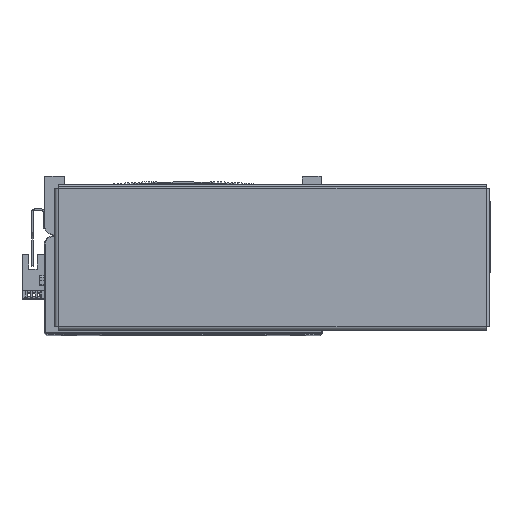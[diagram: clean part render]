
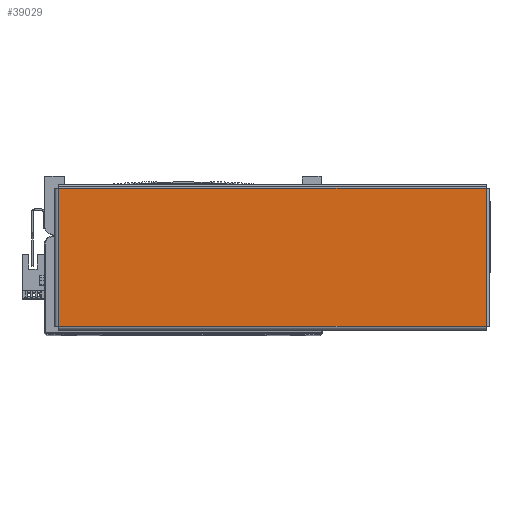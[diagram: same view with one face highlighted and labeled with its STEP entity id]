
A CAD part, top view. The second image highlights one B-rep face of the part: STEP entity #39029.
In plain terms, the highlighted planar face has unit normal (0, 0, 1) as drawn and (0, -1, 0) by its records, which use the part's own axes.
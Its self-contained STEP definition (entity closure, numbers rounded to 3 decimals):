
#3557 = CARTESIAN_POINT ( 'NONE',  ( -130.863, -1.5, -42.263 ) ) ;
#3619 = CARTESIAN_POINT ( 'NONE',  ( 130.863, -1.5, -42.263 ) ) ;
#3626 = CARTESIAN_POINT ( 'NONE',  ( 130.863, -1.5, 42.263 ) ) ;
#3648 = CARTESIAN_POINT ( 'NONE',  ( -130.863, -1.5, 42.263 ) ) ;
#12956 = CARTESIAN_POINT ( 'NONE',  ( 0., -1.5, 0. ) ) ;
#12966 = DIRECTION ( 'NONE',  ( 0., 0., 1. ) ) ;
#12972 = PLANE ( 'NONE',  #25814 ) ;
#12984 = DIRECTION ( 'NONE',  ( 0., 1., 0. ) ) ;
#18069 = FACE_OUTER_BOUND ( 'NONE', #20465, .T. ) ;
#20465 = EDGE_LOOP ( 'NONE', ( #47885, #47879, #47887, #47895 ) ) ;
#22952 = DIRECTION ( 'NONE',  ( -1., 0., 0. ) ) ;
#22994 = CARTESIAN_POINT ( 'NONE',  ( 130.893, -1.5, 42.263 ) ) ;
#23011 = CARTESIAN_POINT ( 'NONE',  ( -130.893, -1.5, -42.263 ) ) ;
#23123 = DIRECTION ( 'NONE',  ( 1., 0., 0. ) ) ;
#23210 = CARTESIAN_POINT ( 'NONE',  ( 130.863, -1.5, -42.293 ) ) ;
#23240 = DIRECTION ( 'NONE',  ( 0., 0., 1. ) ) ;
#23444 = CARTESIAN_POINT ( 'NONE',  ( -130.863, -1.5, 42.293 ) ) ;
#23448 = DIRECTION ( 'NONE',  ( 0., 0., -1. ) ) ;
#25814 = AXIS2_PLACEMENT_3D ( 'NONE', #12956, #12984, #12966 ) ;
#26547 = VECTOR ( 'NONE', #23123, 1000. ) ;
#26552 = LINE ( 'NONE', #23210, #26554 ) ;
#26554 = VECTOR ( 'NONE', #23240, 1000. ) ;
#26585 = LINE ( 'NONE', #23011, #26547 ) ;
#26596 = VECTOR ( 'NONE', #22952, 1000. ) ;
#26619 = LINE ( 'NONE', #22994, #26596 ) ;
#26674 = LINE ( 'NONE', #23444, #26705 ) ;
#26705 = VECTOR ( 'NONE', #23448, 1000. ) ;
#36228 = EDGE_CURVE ( 'NONE', #45409, #45417, #26619, .T. ) ;
#36232 = EDGE_CURVE ( 'NONE', #45384, #45396, #26585, .T. ) ;
#36256 = EDGE_CURVE ( 'NONE', #45396, #45409, #26552, .T. ) ;
#36292 = EDGE_CURVE ( 'NONE', #45417, #45384, #26674, .T. ) ;
#39029 = ADVANCED_FACE ( 'NONE', ( #18069 ), #12972, .F. ) ;
#45384 = VERTEX_POINT ( 'NONE', #3557 ) ;
#45396 = VERTEX_POINT ( 'NONE', #3619 ) ;
#45409 = VERTEX_POINT ( 'NONE', #3626 ) ;
#45417 = VERTEX_POINT ( 'NONE', #3648 ) ;
#47879 = ORIENTED_EDGE ( 'NONE', *, *, #36228, .T. ) ;
#47885 = ORIENTED_EDGE ( 'NONE', *, *, #36256, .T. ) ;
#47887 = ORIENTED_EDGE ( 'NONE', *, *, #36292, .T. ) ;
#47895 = ORIENTED_EDGE ( 'NONE', *, *, #36232, .T. ) ;
